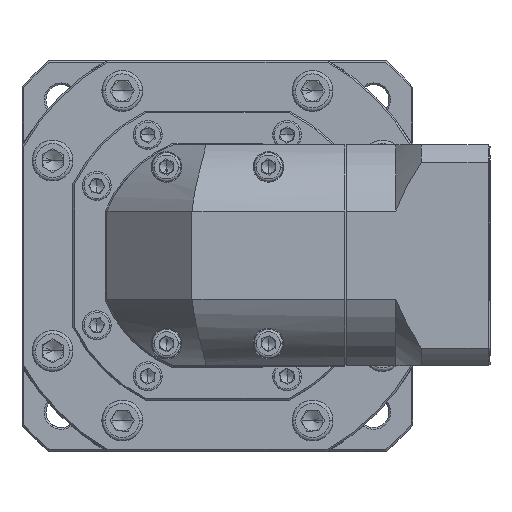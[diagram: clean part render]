
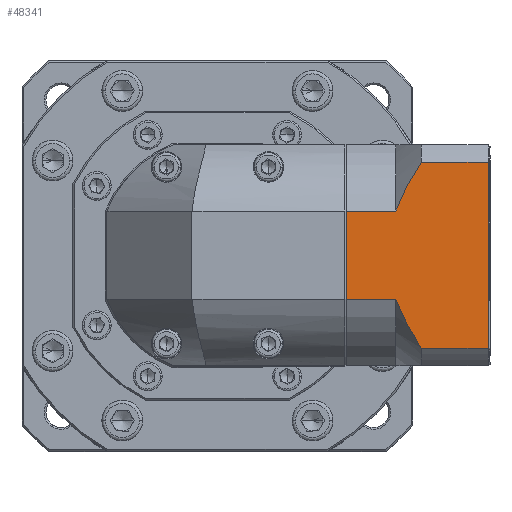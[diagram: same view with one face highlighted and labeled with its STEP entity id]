
A CAD part, top view. The second image highlights one B-rep face of the part: STEP entity #48341.
In plain terms, the highlighted planar face has unit normal (0, 0, 1).
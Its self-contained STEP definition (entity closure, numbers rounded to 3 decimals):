
#4079 = CARTESIAN_POINT ( 'NONE',  ( 109.917, 137.059, 24.619 ) ) ;
#7191 = PLANE ( 'NONE',  #20950 ) ;
#11676 = CARTESIAN_POINT ( 'NONE',  ( 88.65, 97.82, 24.619 ) ) ;
#12122 = CARTESIAN_POINT ( 'NONE',  ( 88.65, 123.801, 24.619 ) ) ;
#13381 = LINE ( 'NONE', #97837, #123538 ) ;
#16223 = DIRECTION ( 'NONE',  ( 0., -1., 0. ) ) ;
#16487 = CARTESIAN_POINT ( 'NONE',  ( 109.202, 135.908, 24.619 ) ) ;
#20476 = VERTEX_POINT ( 'NONE', #99954 ) ;
#20821 = CARTESIAN_POINT ( 'NONE',  ( 103.15, 83.425, 24.619 ) ) ;
#20950 = AXIS2_PLACEMENT_3D ( 'NONE', #63274, #130351, #62292 ) ;
#25809 = CARTESIAN_POINT ( 'NONE',  ( 103.15, 97.82, 24.619 ) ) ;
#26297 = CARTESIAN_POINT ( 'NONE',  ( 107.801, 88.007, 24.619 ) ) ;
#27899 = CARTESIAN_POINT ( 'NONE',  ( 105.237, 128.791, 24.619 ) ) ;
#28795 = VECTOR ( 'NONE', #78622, 1000. ) ;
#30790 = DIRECTION ( 'NONE',  ( -1., 0., 0. ) ) ;
#35997 = EDGE_CURVE ( 'NONE', #65691, #108230, #55077, .T. ) ;
#36815 = CARTESIAN_POINT ( 'NONE',  ( 104.441, 94.654, 24.619 ) ) ;
#37892 = CARTESIAN_POINT ( 'NONE',  ( 107.147, 132.387, 24.619 ) ) ;
#45229 = CARTESIAN_POINT ( 'NONE',  ( 130.35, 143.311, 24.619 ) ) ;
#46872 = EDGE_CURVE ( 'NONE', #69693, #20476, #107399, .T. ) ;
#48224 = CARTESIAN_POINT ( 'NONE',  ( 110.65, 83.425, 24.619 ) ) ;
#48341 = ADVANCED_FACE ( 'NONE', ( #143493 ), #7191, .F. ) ;
#51789 = EDGE_CURVE ( 'NONE', #128272, #108230, #72023, .T. ) ;
#51934 = LINE ( 'NONE', #123305, #28795 ) ;
#53269 = CARTESIAN_POINT ( 'NONE',  ( 110.65, 138.197, 24.619 ) ) ;
#55077 = LINE ( 'NONE', #140493, #95962 ) ;
#57113 = EDGE_CURVE ( 'NONE', #128272, #132528, #147541, .T. ) ;
#59599 = CARTESIAN_POINT ( 'NONE',  ( 104.167, 95.278, 24.619 ) ) ;
#62191 = CARTESIAN_POINT ( 'NONE',  ( 103.15, 97.82, 24.619 ) ) ;
#62292 = DIRECTION ( 'NONE',  ( 1., 0., 0. ) ) ;
#63044 = VECTOR ( 'NONE', #101632, 1000. ) ;
#63274 = CARTESIAN_POINT ( 'NONE',  ( 130.85, 143.311, 24.619 ) ) ;
#63398 = LINE ( 'NONE', #45229, #70526 ) ;
#65691 = VERTEX_POINT ( 'NONE', #12122 ) ;
#67352 = CARTESIAN_POINT ( 'NONE',  ( 103.15, 97.82, 24.619 ) ) ;
#67529 = CARTESIAN_POINT ( 'NONE',  ( 130.35, 83.425, 24.619 ) ) ;
#69693 = VERTEX_POINT ( 'NONE', #53269 ) ;
#70526 = VECTOR ( 'NONE', #136636, 1000. ) ;
#70897 = VECTOR ( 'NONE', #30790, 1000. ) ;
#71539 = CARTESIAN_POINT ( 'NONE',  ( 103.389, 97.178, 24.619 ) ) ;
#72023 = LINE ( 'NONE', #67352, #63044 ) ;
#72138 = CARTESIAN_POINT ( 'NONE',  ( 103.15, 123.801, 24.619 ) ) ;
#72198 = VERTEX_POINT ( 'NONE', #67529 ) ;
#76260 = EDGE_CURVE ( 'NONE', #69693, #123531, #13381, .T. ) ;
#78109 = ORIENTED_EDGE ( 'NONE', *, *, #122097, .F. ) ;
#78622 = DIRECTION ( 'NONE',  ( 1., 0., 0. ) ) ;
#78656 = ORIENTED_EDGE ( 'NONE', *, *, #57113, .T. ) ;
#79579 = EDGE_CURVE ( 'NONE', #72198, #123531, #63398, .T. ) ;
#84480 = DIRECTION ( 'NONE',  ( 1., 0., 0. ) ) ;
#89435 = ORIENTED_EDGE ( 'NONE', *, *, #46872, .T. ) ;
#95463 = CARTESIAN_POINT ( 'NONE',  ( 104.092, 126.339, 24.619 ) ) ;
#95962 = VECTOR ( 'NONE', #16223, 1000. ) ;
#97837 = CARTESIAN_POINT ( 'NONE',  ( 103.15, 138.197, 24.619 ) ) ;
#99954 = CARTESIAN_POINT ( 'NONE',  ( 103.15, 123.801, 24.619 ) ) ;
#101632 = DIRECTION ( 'NONE',  ( -1., 0., 0. ) ) ;
#102090 = ORIENTED_EDGE ( 'NONE', *, *, #76260, .F. ) ;
#106693 = CARTESIAN_POINT ( 'NONE',  ( 130.35, 138.197, 24.619 ) ) ;
#106794 = CARTESIAN_POINT ( 'NONE',  ( 109.189, 85.693, 24.619 ) ) ;
#107399 = B_SPLINE_CURVE_WITH_KNOTS ( 'NONE', 3,
 ( #141229, #4079, #16487, #128722, #37892, #27899, #95463, #72138 ),
 .UNSPECIFIED., .F., .F.,
 ( 4, 2, 2, 4 ),
 ( 0.058, 0.062, 0.066, 0.074 ),
 .UNSPECIFIED. ) ;
#108230 = VERTEX_POINT ( 'NONE', #11676 ) ;
#115353 = LINE ( 'NONE', #20821, #70897 ) ;
#116254 = CARTESIAN_POINT ( 'NONE',  ( 105.291, 92.8, 24.619 ) ) ;
#117194 = CARTESIAN_POINT ( 'NONE',  ( 105.896, 91.588, 24.619 ) ) ;
#118542 = EDGE_LOOP ( 'NONE', ( #141585, #119096, #102090, #89435, #78109, #138983, #147072, #78656 ) ) ;
#119096 = ORIENTED_EDGE ( 'NONE', *, *, #79579, .T. ) ;
#122097 = EDGE_CURVE ( 'NONE', #65691, #20476, #51934, .T. ) ;
#123169 = EDGE_CURVE ( 'NONE', #72198, #132528, #115353, .T. ) ;
#123305 = CARTESIAN_POINT ( 'NONE',  ( 103.15, 123.801, 24.619 ) ) ;
#123531 = VERTEX_POINT ( 'NONE', #106693 ) ;
#123538 = VECTOR ( 'NONE', #84480, 1000. ) ;
#128272 = VERTEX_POINT ( 'NONE', #62191 ) ;
#128722 = CARTESIAN_POINT ( 'NONE',  ( 107.817, 133.573, 24.619 ) ) ;
#129138 = CARTESIAN_POINT ( 'NONE',  ( 103.641, 96.539, 24.619 ) ) ;
#130351 = DIRECTION ( 'NONE',  ( 0., 0., -1. ) ) ;
#132528 = VERTEX_POINT ( 'NONE', #145466 ) ;
#136636 = DIRECTION ( 'NONE',  ( 0., 1., 0. ) ) ;
#138983 = ORIENTED_EDGE ( 'NONE', *, *, #35997, .T. ) ;
#140493 = CARTESIAN_POINT ( 'NONE',  ( 88.65, 143.311, 24.619 ) ) ;
#141229 = CARTESIAN_POINT ( 'NONE',  ( 110.65, 138.197, 24.619 ) ) ;
#141585 = ORIENTED_EDGE ( 'NONE', *, *, #123169, .F. ) ;
#143493 = FACE_OUTER_BOUND ( 'NONE', #118542, .T. ) ;
#145466 = CARTESIAN_POINT ( 'NONE',  ( 110.65, 83.425, 24.619 ) ) ;
#147072 = ORIENTED_EDGE ( 'NONE', *, *, #51789, .F. ) ;
#147541 = B_SPLINE_CURVE_WITH_KNOTS ( 'NONE', 3,
 ( #25809, #71539, #129138, #59599, #36815, #116254, #117194, #26297, #106794, #48224 ),
 .UNSPECIFIED., .F., .F.,
 ( 4, 2, 2, 2, 4 ),
 ( 0.101, 0.103, 0.105, 0.109, 0.117 ),
 .UNSPECIFIED. ) ;
